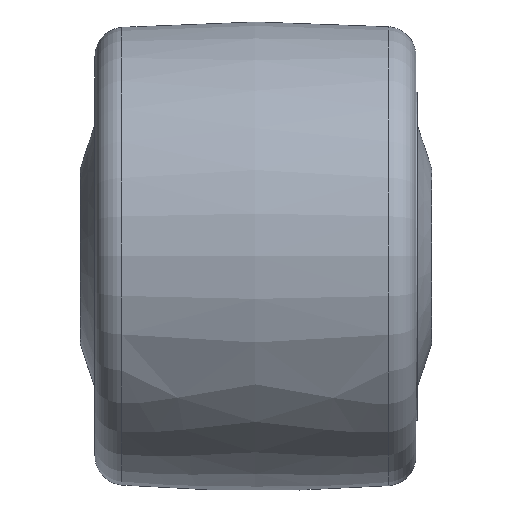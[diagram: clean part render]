
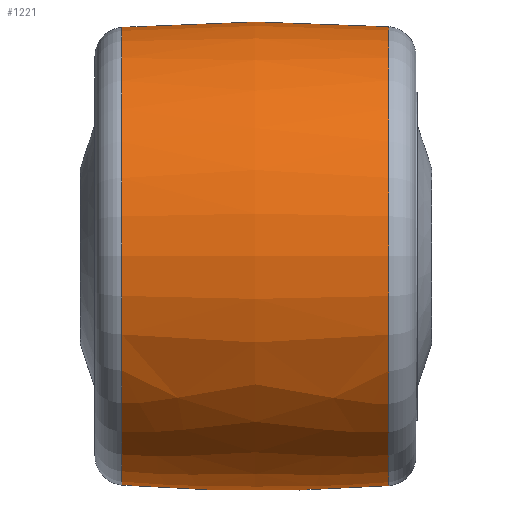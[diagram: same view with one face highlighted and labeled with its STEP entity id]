
A CAD part, front view. The second image highlights one B-rep face of the part: STEP entity #1221.
In plain terms, the highlighted free-form (B-spline) face has degree [2, 2] with [3, 9] control points.
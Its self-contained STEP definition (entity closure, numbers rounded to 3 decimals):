
#49=(
BOUNDED_SURFACE()
B_SPLINE_SURFACE(2,2,((#2152,#2153,#2154,#2155,#2156,#2157,#2158,#2159,
#2160),(#2161,#2162,#2163,#2164,#2165,#2166,#2167,#2168,#2169),(#2170,#2171,
#2172,#2173,#2174,#2175,#2176,#2177,#2178)),.UNSPECIFIED.,.F.,.T.,.F.)
B_SPLINE_SURFACE_WITH_KNOTS((3,3),(3,2,2,2,3),(-0.074,0.078),
(-3.142,-1.571,0.,1.571,3.142),
 .UNSPECIFIED.)
GEOMETRIC_REPRESENTATION_ITEM()
RATIONAL_B_SPLINE_SURFACE(((1.,0.707,1.,0.707,1.,
0.707,1.,0.707,1.),(0.997,0.705,
0.997,0.705,0.997,0.705,0.997,
0.705,0.997),(1.,0.707,1.,0.707,
1.,0.707,1.,0.707,1.)))
REPRESENTATION_ITEM('')
SURFACE()
);
#177=FACE_OUTER_BOUND('',#256,.T.);
#256=EDGE_LOOP('',(#946,#947,#948,#949,#950,#951));
#429=CIRCLE('',#1403,39.181);
#430=CIRCLE('',#1404,39.181);
#432=CIRCLE('',#1406,39.085);
#433=CIRCLE('',#1407,39.085);
#434=CIRCLE('',#1408,300.);
#565=VERTEX_POINT('',#2147);
#566=VERTEX_POINT('',#2148);
#567=VERTEX_POINT('',#2179);
#568=VERTEX_POINT('',#2180);
#721=EDGE_CURVE('',#565,#566,#429,.T.);
#722=EDGE_CURVE('',#566,#565,#430,.T.);
#724=EDGE_CURVE('',#567,#568,#432,.T.);
#725=EDGE_CURVE('',#568,#567,#433,.T.);
#726=EDGE_CURVE('',#568,#566,#434,.T.);
#946=ORIENTED_EDGE('',*,*,#724,.F.);
#947=ORIENTED_EDGE('',*,*,#725,.F.);
#948=ORIENTED_EDGE('',*,*,#726,.T.);
#949=ORIENTED_EDGE('',*,*,#722,.T.);
#950=ORIENTED_EDGE('',*,*,#721,.T.);
#951=ORIENTED_EDGE('',*,*,#726,.F.);
#1221=ADVANCED_FACE('',(#177),#49,.F.);
#1403=AXIS2_PLACEMENT_3D('',#2149,#1698,#1699);
#1404=AXIS2_PLACEMENT_3D('',#2150,#1700,#1701);
#1406=AXIS2_PLACEMENT_3D('',#2181,#1704,#1705);
#1407=AXIS2_PLACEMENT_3D('',#2182,#1706,#1707);
#1408=AXIS2_PLACEMENT_3D('',#2183,#1708,#1709);
#1698=DIRECTION('center_axis',(-1.,0.,0.));
#1699=DIRECTION('ref_axis',(0.,0.,1.));
#1700=DIRECTION('center_axis',(-1.,0.,0.));
#1701=DIRECTION('ref_axis',(0.,0.,1.));
#1704=DIRECTION('center_axis',(-1.,0.,0.));
#1705=DIRECTION('ref_axis',(0.,0.,1.));
#1706=DIRECTION('center_axis',(-1.,0.,0.));
#1707=DIRECTION('ref_axis',(0.,0.,1.));
#1708=DIRECTION('center_axis',(0.,-1.,0.));
#1709=DIRECTION('ref_axis',(0.,0.,
-1.));
#2147=CARTESIAN_POINT('',(50.181,0.,39.181));
#2148=CARTESIAN_POINT('',(50.181,0.,-39.181));
#2149=CARTESIAN_POINT('Origin',(50.181,0.,0.));
#2150=CARTESIAN_POINT('Origin',(50.181,0.,0.));
#2152=CARTESIAN_POINT('Ctrl Pts',(50.181,0.,-39.181));
#2153=CARTESIAN_POINT('Ctrl Pts',(50.181,-39.181,-39.181));
#2154=CARTESIAN_POINT('Ctrl Pts',(50.181,-39.181,0.));
#2155=CARTESIAN_POINT('Ctrl Pts',(50.181,-39.181,39.181));
#2156=CARTESIAN_POINT('Ctrl Pts',(50.181,0.,39.181));
#2157=CARTESIAN_POINT('Ctrl Pts',(50.181,39.181,39.181));
#2158=CARTESIAN_POINT('Ctrl Pts',(50.181,39.181,0.));
#2159=CARTESIAN_POINT('Ctrl Pts',(50.181,39.181,-39.181));
#2160=CARTESIAN_POINT('Ctrl Pts',(50.181,0.,-39.181));
#2161=CARTESIAN_POINT('Ctrl Pts',(27.392,0.,-40.868));
#2162=CARTESIAN_POINT('Ctrl Pts',(27.392,-40.868,-40.868));
#2163=CARTESIAN_POINT('Ctrl Pts',(27.392,-40.868,0.));
#2164=CARTESIAN_POINT('Ctrl Pts',(27.392,-40.868,40.868));
#2165=CARTESIAN_POINT('Ctrl Pts',(27.392,0.,40.868));
#2166=CARTESIAN_POINT('Ctrl Pts',(27.392,40.868,40.868));
#2167=CARTESIAN_POINT('Ctrl Pts',(27.392,40.868,0.));
#2168=CARTESIAN_POINT('Ctrl Pts',(27.392,40.868,-40.868));
#2169=CARTESIAN_POINT('Ctrl Pts',(27.392,0.,-40.868));
#2170=CARTESIAN_POINT('Ctrl Pts',(4.61,0.,-39.085));
#2171=CARTESIAN_POINT('Ctrl Pts',(4.61,-39.085,-39.085));
#2172=CARTESIAN_POINT('Ctrl Pts',(4.61,-39.085,0.));
#2173=CARTESIAN_POINT('Ctrl Pts',(4.61,-39.085,39.085));
#2174=CARTESIAN_POINT('Ctrl Pts',(4.61,0.,39.085));
#2175=CARTESIAN_POINT('Ctrl Pts',(4.61,39.085,39.085));
#2176=CARTESIAN_POINT('Ctrl Pts',(4.61,39.085,0.));
#2177=CARTESIAN_POINT('Ctrl Pts',(4.61,39.085,-39.085));
#2178=CARTESIAN_POINT('Ctrl Pts',(4.61,0.,-39.085));
#2179=CARTESIAN_POINT('',(4.61,0.,39.085));
#2180=CARTESIAN_POINT('',(4.61,0.,-39.085));
#2181=CARTESIAN_POINT('Origin',(4.61,0.,0.));
#2182=CARTESIAN_POINT('Origin',(4.61,0.,0.));
#2183=CARTESIAN_POINT('Origin',(28.023,0.,260.));
